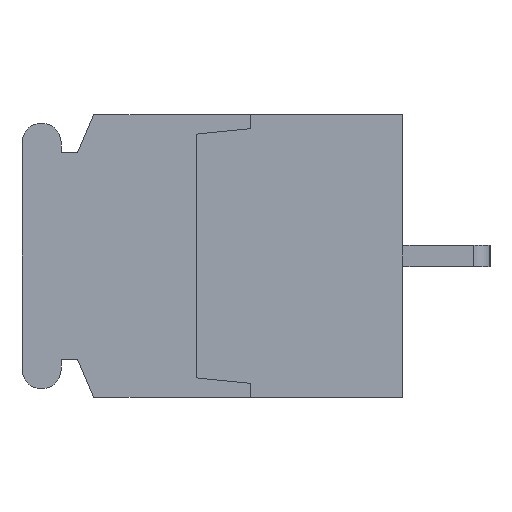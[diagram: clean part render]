
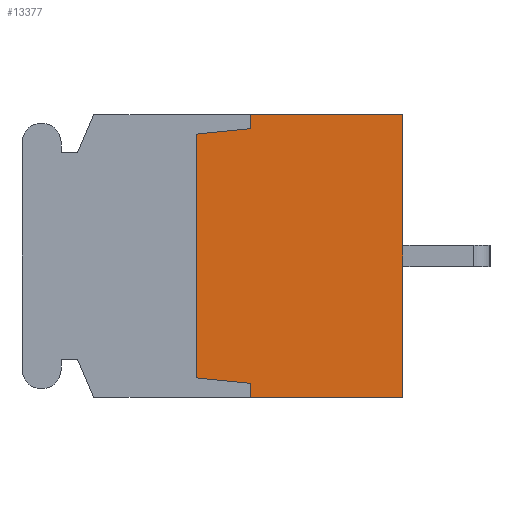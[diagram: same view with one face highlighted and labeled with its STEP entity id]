
A CAD part, left-side view. The second image highlights one B-rep face of the part: STEP entity #13377.
In plain terms, the highlighted planar face has unit normal (-1, 0, 0).
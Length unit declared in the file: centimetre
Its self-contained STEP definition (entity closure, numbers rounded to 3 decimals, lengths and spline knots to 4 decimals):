
#1796=VECTOR('',#16306,1.);
#1797=VECTOR('',#16307,1.);
#1798=VECTOR('',#16308,1.);
#1799=VECTOR('',#16309,1.);
#1800=VECTOR('',#16310,1.);
#1801=VECTOR('',#16311,1.);
#1802=VECTOR('',#16312,1.);
#1803=VECTOR('',#16313,1.);
#3318=LINE('',#20565,#1796);
#3319=LINE('',#20568,#1797);
#3320=LINE('',#20570,#1798);
#3321=LINE('',#20572,#1799);
#3322=LINE('',#20574,#1800);
#3323=LINE('',#20576,#1801);
#3324=LINE('',#20578,#1802);
#3325=LINE('',#20580,#1803);
#4734=VERTEX_POINT('',#20566);
#4735=VERTEX_POINT('',#20567);
#4736=VERTEX_POINT('',#20569);
#4737=VERTEX_POINT('',#20571);
#4738=VERTEX_POINT('',#20573);
#4739=VERTEX_POINT('',#20575);
#4740=VERTEX_POINT('',#20577);
#4741=VERTEX_POINT('',#20579);
#6628=EDGE_CURVE('',#4734,#4735,#3318,.T.);
#6629=EDGE_CURVE('',#4736,#4734,#3319,.T.);
#6630=EDGE_CURVE('',#4737,#4736,#3320,.T.);
#6631=EDGE_CURVE('',#4738,#4737,#3321,.T.);
#6632=EDGE_CURVE('',#4739,#4738,#3322,.T.);
#6633=EDGE_CURVE('',#4740,#4739,#3323,.T.);
#6634=EDGE_CURVE('',#4741,#4740,#3324,.T.);
#6635=EDGE_CURVE('',#4735,#4741,#3325,.T.);
#10012=ORIENTED_EDGE('',*,*,#6628,.F.);
#10013=ORIENTED_EDGE('',*,*,#6629,.F.);
#10014=ORIENTED_EDGE('',*,*,#6630,.F.);
#10015=ORIENTED_EDGE('',*,*,#6631,.F.);
#10016=ORIENTED_EDGE('',*,*,#6632,.F.);
#10017=ORIENTED_EDGE('',*,*,#6633,.F.);
#10018=ORIENTED_EDGE('',*,*,#6634,.F.);
#10019=ORIENTED_EDGE('',*,*,#6635,.F.);
#11777=EDGE_LOOP('',(#10012,#10013,#10014,#10015,#10016,#10017,#10018,#10019));
#12605=FACE_BOUND('',#11777,.T.);
#13377=ADVANCED_FACE('',(#12605),#14007,.F.);
#14007=PLANE('',#22867);
#16305=DIRECTION('',(1.,0.,0.));
#16306=DIRECTION('',(0.,0.,-1.));
#16307=DIRECTION('',(0.,-1.,0.));
#16308=DIRECTION('',(0.,0.,1.));
#16309=DIRECTION('',(0.,-0.995,0.1));
#16310=DIRECTION('',(0.,0.,1.));
#16311=DIRECTION('',(0.,0.995,0.1));
#16312=DIRECTION('',(0.,0.,1.));
#16313=DIRECTION('',(0.,1.,0.));
#20564=CARTESIAN_POINT('',(-1.07,0.4626,0.));
#20565=CARTESIAN_POINT('',(-1.07,0.,0.65));
#20566=CARTESIAN_POINT('',(-1.07,0.,0.65));
#20567=CARTESIAN_POINT('',(-1.07,0.,-0.65));
#20568=CARTESIAN_POINT('',(-1.07,0.7,0.65));
#20569=CARTESIAN_POINT('',(-1.07,0.7,0.65));
#20570=CARTESIAN_POINT('',(-1.07,0.7,0.585));
#20571=CARTESIAN_POINT('',(-1.07,0.7,0.585));
#20572=CARTESIAN_POINT('',(-1.07,0.95,0.56));
#20573=CARTESIAN_POINT('',(-1.07,0.95,0.56));
#20574=CARTESIAN_POINT('',(-1.07,0.95,-0.56));
#20575=CARTESIAN_POINT('',(-1.07,0.95,-0.56));
#20576=CARTESIAN_POINT('',(-1.07,0.7,-0.585));
#20577=CARTESIAN_POINT('',(-1.07,0.7,-0.585));
#20578=CARTESIAN_POINT('',(-1.07,0.7,-0.65));
#20579=CARTESIAN_POINT('',(-1.07,0.7,-0.65));
#20580=CARTESIAN_POINT('',(-1.07,0.,-0.65));
#22867=AXIS2_PLACEMENT_3D('',#20564,#16305,$);
